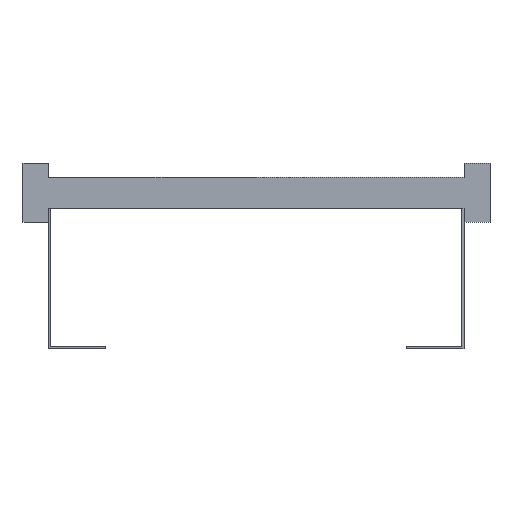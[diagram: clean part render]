
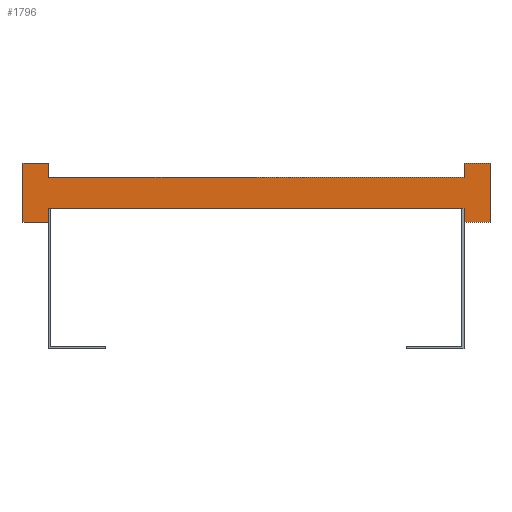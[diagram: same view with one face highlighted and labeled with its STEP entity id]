
A CAD part, front view. The second image highlights one B-rep face of the part: STEP entity #1796.
In plain terms, the highlighted planar face has unit normal (0, -1, 0).
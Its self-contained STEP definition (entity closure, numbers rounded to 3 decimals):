
#113=DIRECTION('',(0.,0.,1.));
#114=VECTOR('',#113,13.5);
#115=CARTESIAN_POINT('',(200.,0.,-28.5));
#116=LINE('',#115,#114);
#117=DIRECTION('',(0.,0.,-1.));
#118=VECTOR('',#117,13.5);
#119=CARTESIAN_POINT('',(-200.,0.,-15.));
#120=LINE('',#119,#118);
#121=DIRECTION('',(-1.,0.,0.));
#122=VECTOR('',#121,25.);
#123=CARTESIAN_POINT('',(-200.,0.,-28.5));
#124=LINE('',#123,#122);
#125=DIRECTION('',(0.,0.,1.));
#126=VECTOR('',#125,57.);
#127=CARTESIAN_POINT('',(-225.,0.,-28.5));
#128=LINE('',#127,#126);
#129=DIRECTION('',(1.,0.,0.));
#130=VECTOR('',#129,25.);
#131=CARTESIAN_POINT('',(-225.,0.,28.5));
#132=LINE('',#131,#130);
#133=DIRECTION('',(0.,0.,-1.));
#134=VECTOR('',#133,13.5);
#135=CARTESIAN_POINT('',(-200.,0.,28.5));
#136=LINE('',#135,#134);
#137=DIRECTION('',(0.,0.,1.));
#138=VECTOR('',#137,13.5);
#139=CARTESIAN_POINT('',(200.,0.,15.));
#140=LINE('',#139,#138);
#141=DIRECTION('',(1.,0.,0.));
#142=VECTOR('',#141,25.);
#143=CARTESIAN_POINT('',(200.,0.,28.5));
#144=LINE('',#143,#142);
#145=DIRECTION('',(0.,0.,-1.));
#146=VECTOR('',#145,57.);
#147=CARTESIAN_POINT('',(225.,0.,28.5));
#148=LINE('',#147,#146);
#149=DIRECTION('',(-1.,0.,0.));
#150=VECTOR('',#149,25.);
#151=CARTESIAN_POINT('',(225.,0.,-28.5));
#152=LINE('',#151,#150);
#1345=DIRECTION('',(1.,0.,0.));
#1346=VECTOR('',#1345,400.);
#1347=CARTESIAN_POINT('',(-200.,0.,-15.));
#1348=LINE('',#1347,#1346);
#1357=DIRECTION('',(1.,0.,0.));
#1358=VECTOR('',#1357,400.);
#1359=CARTESIAN_POINT('',(-200.,0.,15.));
#1360=LINE('',#1359,#1358);
#1361=CARTESIAN_POINT('',(-225.,0.,28.5));
#1362=CARTESIAN_POINT('',(-200.,0.,28.5));
#1363=VERTEX_POINT('',#1361);
#1364=VERTEX_POINT('',#1362);
#1365=CARTESIAN_POINT('',(-200.,0.,-28.5));
#1366=CARTESIAN_POINT('',(-225.,0.,-28.5));
#1367=VERTEX_POINT('',#1365);
#1368=VERTEX_POINT('',#1366);
#1369=CARTESIAN_POINT('',(225.,0.,28.5));
#1370=CARTESIAN_POINT('',(225.,0.,-28.5));
#1371=VERTEX_POINT('',#1369);
#1372=VERTEX_POINT('',#1370);
#1373=CARTESIAN_POINT('',(200.,0.,-28.5));
#1374=VERTEX_POINT('',#1373);
#1375=CARTESIAN_POINT('',(200.,0.,28.5));
#1376=VERTEX_POINT('',#1375);
#1393=CARTESIAN_POINT('',(-200.,0.,-15.));
#1395=VERTEX_POINT('',#1393);
#1397=CARTESIAN_POINT('',(-200.,0.,15.));
#1399=VERTEX_POINT('',#1397);
#1401=CARTESIAN_POINT('',(200.,0.,-15.));
#1403=VERTEX_POINT('',#1401);
#1405=CARTESIAN_POINT('',(200.,0.,15.));
#1407=VERTEX_POINT('',#1405);
#1765=CARTESIAN_POINT('',(0.,0.,0.));
#1766=DIRECTION('',(0.,1.,0.));
#1767=DIRECTION('',(1.,0.,0.));
#1768=AXIS2_PLACEMENT_3D('',#1765,#1766,#1767);
#1769=PLANE('',#1768);
#1771=ORIENTED_EDGE('',*,*,#1770,.T.);
#1773=ORIENTED_EDGE('',*,*,#1772,.F.);
#1775=ORIENTED_EDGE('',*,*,#1774,.T.);
#1777=ORIENTED_EDGE('',*,*,#1776,.T.);
#1779=ORIENTED_EDGE('',*,*,#1778,.T.);
#1781=ORIENTED_EDGE('',*,*,#1780,.T.);
#1783=ORIENTED_EDGE('',*,*,#1782,.T.);
#1785=ORIENTED_EDGE('',*,*,#1784,.T.);
#1787=ORIENTED_EDGE('',*,*,#1786,.T.);
#1789=ORIENTED_EDGE('',*,*,#1788,.T.);
#1791=ORIENTED_EDGE('',*,*,#1790,.T.);
#1793=ORIENTED_EDGE('',*,*,#1792,.T.);
#1794=EDGE_LOOP('',(#1771,#1773,#1775,#1777,#1779,#1781,#1783,#1785,#1787,#1789,
#1791,#1793));
#1795=FACE_OUTER_BOUND('',#1794,.F.);
#1770=EDGE_CURVE('',#1374,#1403,#116,.T.);
#1772=EDGE_CURVE('',#1395,#1403,#1348,.T.);
#1774=EDGE_CURVE('',#1395,#1367,#120,.T.);
#1776=EDGE_CURVE('',#1367,#1368,#124,.T.);
#1778=EDGE_CURVE('',#1368,#1363,#128,.T.);
#1780=EDGE_CURVE('',#1363,#1364,#132,.T.);
#1782=EDGE_CURVE('',#1364,#1399,#136,.T.);
#1784=EDGE_CURVE('',#1399,#1407,#1360,.T.);
#1786=EDGE_CURVE('',#1407,#1376,#140,.T.);
#1788=EDGE_CURVE('',#1376,#1371,#144,.T.);
#1790=EDGE_CURVE('',#1371,#1372,#148,.T.);
#1792=EDGE_CURVE('',#1372,#1374,#152,.T.);
#1796=ADVANCED_FACE('',(#1795),#1769,.F.);
